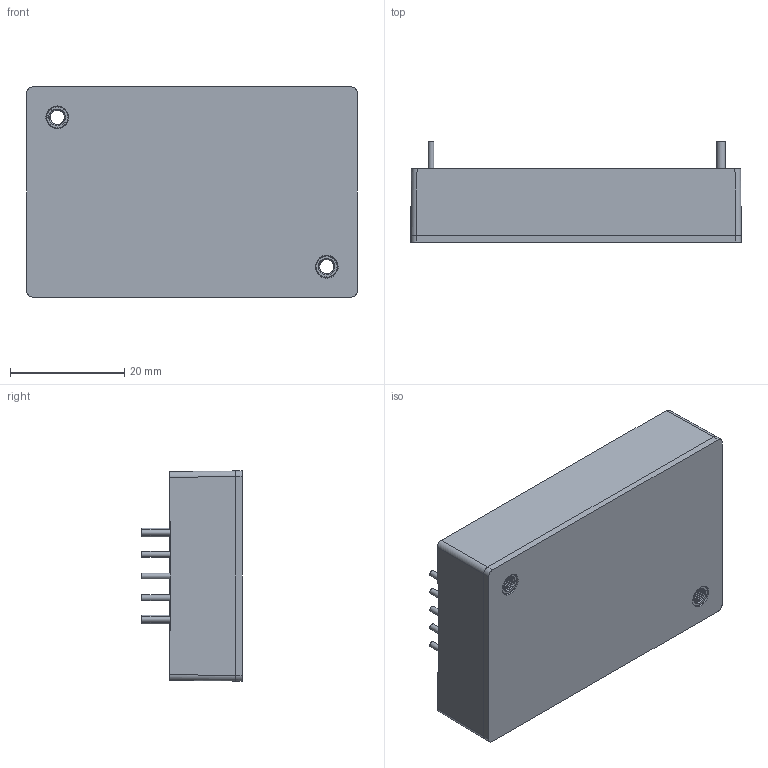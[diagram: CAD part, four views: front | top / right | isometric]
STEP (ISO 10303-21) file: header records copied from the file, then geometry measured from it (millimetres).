
FILE_DESCRIPTION (( 'STEP AP203' ), '1' );
FILE_NAME ('OPTION -B 2024.12.27.STEP', '2024-12-27T05:26:49', ( '' ), ( '' ), 'SwSTEP 2.0', 'SolidWorks 2020', '' );
FILE_SCHEMA (( 'CONFIG_CONTROL_DESIGN' ));
Length unit declared in the file: millimetre
Products named in the file (1): OPTION -B 2024.12.27
Bounding box: 57.9 x 17.6 x 36.8 mm (x, y, z)
Volume: 26854.6 mm3; surface area: 8161.9 mm2
Topology: 1 solids, 2 shells, 336 faces, 1118 edges, 814 vertices
Faces by surface type: plane 220, cylinder 56, cone 54, bspline 6
Full cylindrical faces by diameter (mm): 1 x8, 1.2 x8, 1.5 x2, 1.7 x2, 4 x2, 4.3 x2, 4.7 x2
Entity records: 16836 total; most frequent: CARTESIAN_POINT 7774, ORIENTED_EDGE 2148, DIRECTION 1604, EDGE_CURVE 1074, VERTEX_POINT 798, AXIS2_PLACEMENT_3D 557, VECTOR 490, LINE 490
